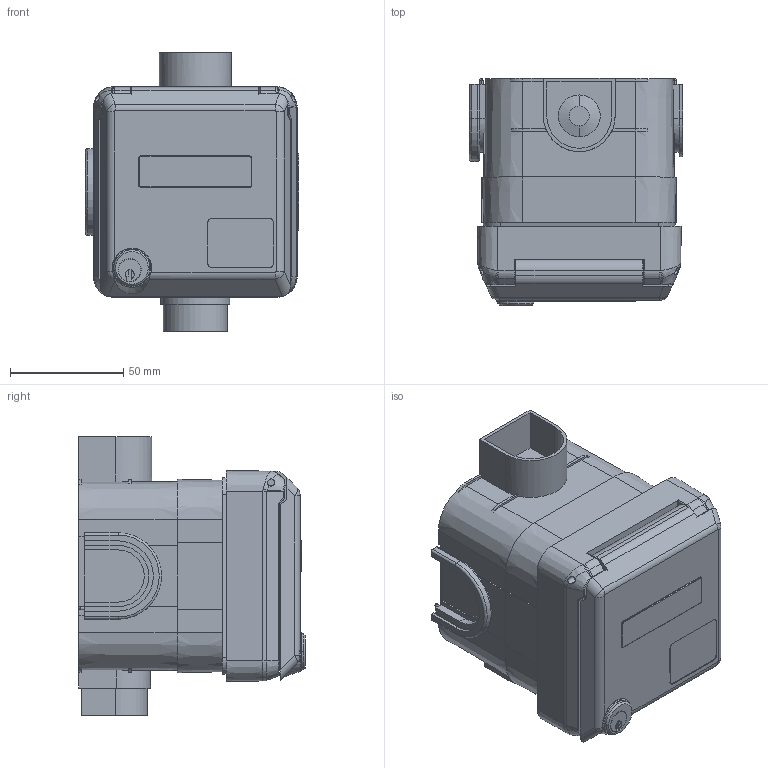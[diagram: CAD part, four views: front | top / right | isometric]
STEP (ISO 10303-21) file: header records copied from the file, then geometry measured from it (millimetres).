
FILE_DESCRIPTION((''),'2;1');
FILE_NAME('1117973_ASM_SW0001','2018-08-24T',('Gisse'),('MENNEKES'),'PRO/ENGINEER BY PARAMETRIC TECHNOLOGY CORPORATION, 2015440','PRO/ENGINEER BY PARAMETRIC TECHNOLOGY CORPORATION, 2015440','');
FILE_SCHEMA(('AUTOMOTIVE_DESIGN { 1 0 10303 214 1 1 1 1 }'));
Length unit declared in the file: millimetre
Products named in the file (1): 1117973_ASM_SW0001
Bounding box: 94.1 x 100.15 x 123 mm (x, y, z)
Volume: 700145.1 mm3; surface area: 65845.9 mm2
Topology: 1 solids, 1 shells, 435 faces, 1166 edges, 742 vertices
Faces by surface type: plane 229, cylinder 116, bspline 42, cone 32, torus 14, sphere 2
Entity records: 20437 total; most frequent: CARTESIAN_POINT 4479, ORIENTED_EDGE 2328, DIRECTION 2107, EDGE_CURVE 1164, FILL_AREA_STYLE_COLOUR 809, FILL_AREA_STYLE 809, SURFACE_STYLE_FILL_AREA 809, SURFACE_SIDE_STYLE 809
